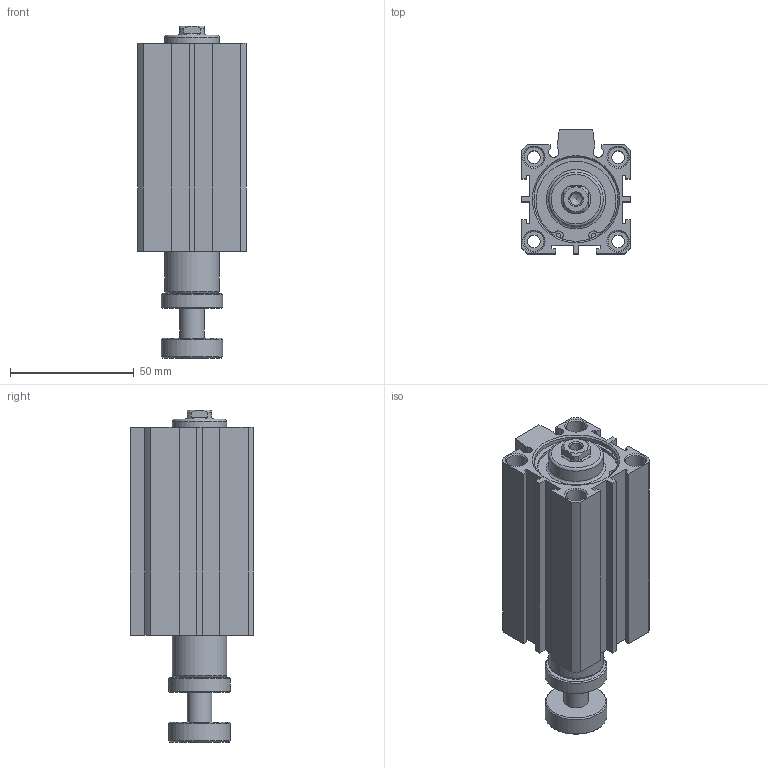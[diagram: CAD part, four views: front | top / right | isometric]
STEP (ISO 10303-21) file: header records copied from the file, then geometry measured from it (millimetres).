
FILE_DESCRIPTION((''),'2;1');
FILE_NAME('I:\3D電子目錄\氣缸\JDAR\JDAR\JDAR32\JDAR32x60.stp','2007-03-14T10:15:15',('662F206'),(''),'Autodesk Inventor 11','Autodesk Inventor 11','');
FILE_SCHEMA(('AUTOMOTIVE_DESIGN { 1 0 10303 214 1 1 1 1 }'));
Length unit declared in the file: millimetre
Products named in the file (3): JDAR32; R 形環 35
Assembly tree (3 placements, depth 2):
  JDAR32
    JDAR32
    R 形環 35  x2
Bounding box: 44 x 50 x 134.1 mm (x, y, z)
Volume: 155832.8 mm3; surface area: 39058.3 mm2
Topology: 3 solids, 3 shells, 170 faces, 399 edges, 259 vertices
Faces by surface type: plane 88, cylinder 51, cone 21, bspline 8, torus 2
Full cylindrical faces by diameter (mm): 1.9 x4, 2.2 x2, 5.1 x4, 8 x8, 10 x1, 22 x2, 25 x2, 34 x4, 36 x2
Entity records: 4435 total; most frequent: CARTESIAN_POINT 886, DIRECTION 740, ORIENTED_EDGE 622, EDGE_CURVE 311, AXIS2_PLACEMENT_3D 281, EDGE_LOOP 246, VERTEX_POINT 233, VECTOR 178
